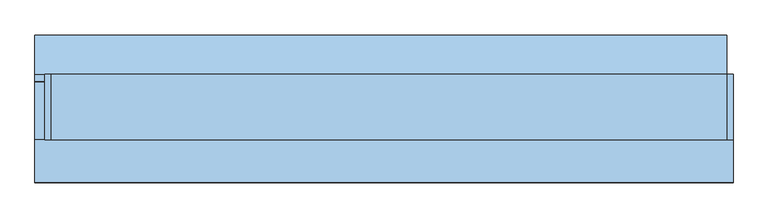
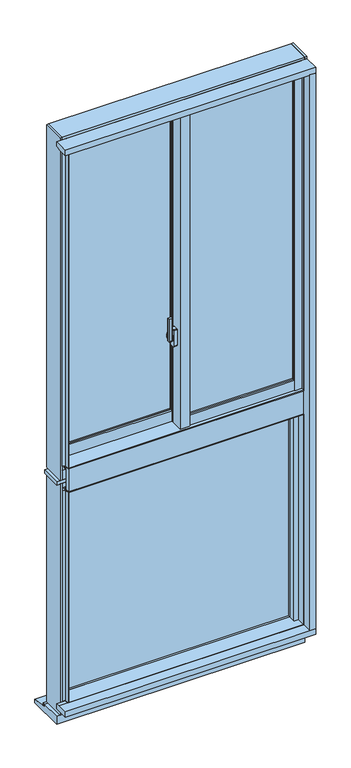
"""IFC4 building model written with IfcOpenShell, lengths in millimetres: window geometry, FNSⅡ100R_非防火_RC枠_段窓_分解無目 : 隠蔽突出排煙/框ドア."""

from ifc_helpers import new_model, si_unit, point, frame, frame_2d, origin, place, context, project, spatial, polyline, circle_curve, trimmed, segment, composite_curve, outline, extrude, faceted_brep, source, transform, mapped, element, save
from ifc_brep_helpers import plane_surface, cylinder_surface, revolved_surface, advanced_brep


def window_af76bd46(model_context):
    return source(origin(), model_context, "Body", "SolidModel", [
        extrude(outline(composite_curve([segment(polyline([(-39.0, -20.4), (-39.0, -28.6)]), True, "CONTINUOUS"), segment(trimmed(circle_curve(frame_2d((-41.0, -28.6)), 2.0), [point((-39.0, -28.6))], [point((-41.3606557, -30.5672131))], False, "CARTESIAN"), True, "CONTINUOUS"), segment(polyline([(-41.3606557, -30.5672131), (-52.3606557, -28.5505464)]), True, "CONTINUOUS"), segment(trimmed(circle_curve(frame_2d((-52.0, -26.5833333)), 2.0), [point((-52.3606557, -28.5505464))], [point((-54.0, -26.5833333))], False, "CARTESIAN"), True, "CONTINUOUS"), segment(polyline([(-54.0, -26.5833333), (-54.0, -22.4166667)]), True, "CONTINUOUS"), segment(trimmed(circle_curve(frame_2d((-52.0, -22.4166667)), 2.0), [point((-54.0, -22.4166667))], [point((-52.3606557, -20.4494536))], False, "CARTESIAN"), True, "CONTINUOUS"), segment(polyline([(-52.3606557, -20.4494536), (-41.3606557, -18.4327869)]), True, "CONTINUOUS"), segment(trimmed(circle_curve(frame_2d((-41.0, -20.4)), 2.0), [point((-41.3606557, -18.4327869))], [point((-39.0, -20.4))], False, "CARTESIAN"), True, "CONTINUOUS")], self_intersect=False)), frame((0.0, 0.0, 2345.0), z_axis=(0.0, 0.0, 1.0), x_axis=(1.0, 0.0, 0.0)), (0.0, 0.0, 1.0), 100.0),
        advanced_brep(
        [(-37.5, -16.1765715, 2376.7333311), (-45.5, -16.1765715, 2376.7333311), (-45.5, -16.5648001, 2375.2844424), (-39.0, -16.5648001, 2375.2844424), (-39.0, -18.3765334, 2368.5229616), (-37.5, -18.3765334, 2368.5229616), (-39.0, -18.3533883, 2334.3190372), (-45.5, -18.3533883, 2334.3190372), (-45.5, -18.092916, 2332.8418256), (-37.5, -18.092916, 2332.8418256), (-37.5, -19.5689255, 2341.2126915), (-39.0, -19.5689255, 2341.2126915)],
        [
            (0, 1),
            (1, 2),
            (2, 3),
            (3, 4),
            (4, 5),
            (5, 0),
            (6, 7),
            (7, 8),
            (8, 9),
            (9, 10),
            (10, 11),
            (11, 6),
            (0, 9, circle_curve(frame((-37.5, -22.0, 2355.0), z_axis=(-1.0, 0.0, 0.0), x_axis=(0.0, 0.25881904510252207, 0.965925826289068)), 22.5)),
            (8, 1, circle_curve(frame((-45.5, -22.0, 2355.0), z_axis=(1.0, 0.0, 0.0), x_axis=(0.0, 0.25881904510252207, 0.965925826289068)), 22.5)),
            (7, 2, circle_curve(frame((-45.5, -22.0, 2355.0), z_axis=(1.0, 0.0, 0.0), x_axis=(0.0, 0.25881904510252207, 0.965925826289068)), 21.0)),
            (6, 3, circle_curve(frame((-39.0, -22.0, 2355.0), z_axis=(1.0, 0.0, 0.0), x_axis=(0.0, 0.25881904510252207, 0.965925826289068)), 21.0)),
            (11, 4, circle_curve(frame((-39.0, -22.0, 2355.0), z_axis=(-1.0, 0.0, 0.0), x_axis=(0.0, -1.0, 0.0)), 14.0)),
            (5, 10, circle_curve(frame((-37.5, -22.0, 2355.0), z_axis=(1.0, 0.0, 0.0), x_axis=(0.0, -1.0, 0.0)), 14.0)),
        ],
        [
            plane_surface(frame((-43.5470497, -22.0, 2355.0), z_axis=(0.0, -0.965925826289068, 0.25881904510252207), x_axis=(0.0, 0.25881904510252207, 0.965925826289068))),
            plane_surface(frame((-43.5470497, -22.0, 2355.0), z_axis=(0.0, -0.9848077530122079, -0.17364817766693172), x_axis=(0.0, 0.17364817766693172, -0.9848077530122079))),
            cylinder_surface(frame((-43.5470497, -22.0, 2355.0), z_axis=(-1.0, 0.0, 0.0), x_axis=(0.0, 0.25881904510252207, 0.965925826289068)), 22.5),
            plane_surface(frame((-45.5, -22.0, 2355.0), z_axis=(-1.0, 0.0, 0.0), x_axis=(0.0, 0.25881904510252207, 0.965925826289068))),
            revolved_surface(polyline([(-45.5, -16.564800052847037, 2375.2844423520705), (-39.0, -16.564800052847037, 2375.2844423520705)]), (-43.5470497, -22.0, 2355.0), (-1.0, 0.0, 0.0)),
            plane_surface(frame((-39.0, -22.0, 2355.0), z_axis=(-1.0, 0.0, 0.0), x_axis=(0.0, 0.25881904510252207, 0.965925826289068))),
            plane_surface(frame((-37.5, -22.0, 2355.0), z_axis=(1.0, 0.0, 0.0), x_axis=(0.0, 0.25881904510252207, 0.965925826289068))),
            cylinder_surface(frame((-37.5, -22.0, 2355.0), z_axis=(-1.0, 0.0, 0.0), x_axis=(0.0, -1.0, 0.0)), 14.0),
        ],
        [
            (0, [[1, 2, 3, 4, 5, 6]]),
            (1, [[7, 8, 9, 10, 11, 12]]),
            (2, [[-1, 13, -9, 14]]),
            (3, [[-2, -14, -8, 15]]),
            (4, [[-3, -15, -7, 16]]),
            (5, [[-16, -12, 17, -4]]),
            (6, [[-13, -6, 18, -10]]),
            (7, [[-17, -11, -18, -5]]),
        ],
    ),
        extrude(outline(composite_curve([segment(trimmed(circle_curve(frame_2d((-22.0, 2355.0)), 11.5), [point((-10.5, 2355.0))], [point((-33.5, 2355.0))], False, "CARTESIAN"), True, "CONTINUOUS"), segment(trimmed(circle_curve(frame_2d((-22.0, 2355.0)), 11.5), [point((-33.5, 2355.0))], [point((-10.5, 2355.0))], False, "CARTESIAN"), True, "CONTINUOUS")], self_intersect=False)), frame((-37.5, 0.0, 0.0), z_axis=(1.0, 0.0, 0.0), x_axis=(0.0, 1.0, 0.0)), (0.0, 0.0, 1.0), 2.5),
        extrude(outline(composite_curve([segment(polyline([(-31.0, 2392.5), (-13.0, 2392.5)]), True, "CONTINUOUS"), segment(trimmed(circle_curve(frame_2d((-13.0, 2390.5)), 2.0), [point((-13.0, 2392.5))], [point((-11.0, 2390.5))], False, "CARTESIAN"), True, "CONTINUOUS"), segment(polyline([(-11.0, 2390.5), (-11.0, 2319.5)]), True, "CONTINUOUS"), segment(trimmed(circle_curve(frame_2d((-13.0, 2319.5)), 2.0), [point((-11.0, 2319.5))], [point((-13.0, 2317.5))], False, "CARTESIAN"), True, "CONTINUOUS"), segment(polyline([(-13.0, 2317.5), (-31.0, 2317.5)]), True, "CONTINUOUS"), segment(trimmed(circle_curve(frame_2d((-31.0, 2319.5)), 2.0), [point((-31.0, 2317.5))], [point((-33.0, 2319.5))], False, "CARTESIAN"), True, "CONTINUOUS"), segment(polyline([(-33.0, 2319.5), (-33.0, 2390.5)]), True, "CONTINUOUS"), segment(trimmed(circle_curve(frame_2d((-31.0, 2390.5)), 2.0), [point((-33.0, 2390.5))], [point((-31.0, 2392.5))], False, "CARTESIAN"), True, "CONTINUOUS")], self_intersect=False)), frame((-35.0, 0.0, 0.0), z_axis=(1.0, 0.0, 0.0), x_axis=(0.0, 1.0, 0.0)), (0.0, 0.0, 1.0), 15.0),
        extrude(outline(polyline([(20.0, -31.0), (468.0, -31.0), (468.0, -37.0), (20.0, -37.0), (20.0, -31.0)])), frame((0.0, 0.0, 2003.0), z_axis=(0.0, 0.0, 1.0), x_axis=(1.0, 0.0, 0.0)), (0.0, 0.0, 1.0), 1357.0),
        extrude(outline(polyline([(20.0, -13.0), (468.0, -13.0), (468.0, -19.0), (20.0, -19.0), (20.0, -13.0)])), frame((0.0, 0.0, 2003.0), z_axis=(0.0, 0.0, 1.0), x_axis=(1.0, 0.0, 0.0)), (0.0, 0.0, 1.0), 1357.0),
        extrude(outline(polyline([(-468.0, 27.0), (-20.0, 27.0), (-20.0, 21.0), (-468.0, 21.0), (-468.0, 27.0)])), frame((0.0, 0.0, 2003.0), z_axis=(0.0, 0.0, 1.0), x_axis=(1.0, 0.0, 0.0)), (0.0, 0.0, 1.0), 1357.0),
        extrude(outline(polyline([(-468.0, 45.0), (-20.0, 45.0), (-20.0, 39.0), (-468.0, 39.0), (-468.0, 45.0)])), frame((0.0, 0.0, 2003.0), z_axis=(0.0, 0.0, 1.0), x_axis=(1.0, 0.0, 0.0)), (0.0, 0.0, 1.0), 1357.0),
        faceted_brep([(-489.5, 24.0, 3400.0), (-500.0, 24.0, 3400.0), (-500.0, 24.0, 1915.0), (-468.0, 24.0, 1915.0), (-468.0, 24.0, 1955.0), (-489.5, 24.0, 1955.0), (-489.5, 11.0, 3400.0), (-489.5, 11.0, 1955.0), (-468.0, 53.0, 3400.0), (-468.0, 11.0, 3400.0), (-468.0, 11.0, 1955.0), (-468.0, 53.0, 1915.0), (-500.0, 53.0, 3400.0), (-500.0, 53.0, 1915.0)], [[[0, 1, 2, 3, 4, 5]], [[6, 0, 5, 7]], [[8, 9, 10, 4, 3, 11]], [[1, 0, 6, 9, 8, 12]], [[3, 2, 13, 11]], [[9, 6, 7, 10]], [[12, 8, 11, 13]], [[2, 1, 12, 13]], [[5, 4, 10, 7]]]),
        faceted_brep([(-20.0, 10.5, 3400.0), (-1.8, 10.5, 3400.0), (-1.8, -1.9, 3400.0), (20.0, -1.9, 3400.0), (20.0, 53.0, 3400.0), (-20.0, 53.0, 3400.0), (-20.0, 53.0, 1915.0), (20.0, 53.0, 1915.0), (20.0, 24.0, 1915.0), (-20.0, 24.0, 1915.0), (-20.0, 10.5, 1955.0), (-1.8, 10.5, 1955.0), (-1.8, -1.9, 1955.0), (20.0, -1.9, 1955.0), (20.0, 24.0, 1955.0), (-20.0, 24.0, 1955.0)], [[[0, 1, 2, 3, 4, 5]], [[6, 7, 8, 9]], [[1, 0, 10, 11]], [[2, 1, 11, 12]], [[3, 2, 12, 13]], [[4, 3, 13, 14, 8, 7]], [[5, 4, 7, 6]], [[0, 5, 6, 9, 15, 10]], [[14, 15, 9, 8]], [[15, 14, 13, 12, 11, 10]]]),
        extrude(outline(polyline([(-20.0, -1.9), (-15.0, -1.9), (-15.0, -47.0), (15.0, -47.0), (15.0, -43.0), (20.0, -43.0), (20.0, -55.0), (-20.0, -55.0), (-20.0, -1.9)])), frame((0.0, 0.0, 1955.0), z_axis=(0.0, 0.0, 1.0), x_axis=(1.0, 0.0, 0.0)), (0.0, 0.0, 1.0), 1445.0),
        extrude(outline(polyline([(-15.0, -1.9), (20.0, -1.9), (20.0, -43.0), (15.0, -43.0), (15.0, -47.0), (-15.0, -47.0), (-15.0, -1.9)])), frame((0.0, 0.0, 1955.0), z_axis=(0.0, 0.0, 1.0), x_axis=(1.0, 0.0, 0.0)), (0.0, 0.0, 1.0), 1445.0),
        extrude(outline(polyline([(468.0, -55.0), (468.0, -47.0), (489.5, -47.0), (489.5, -34.0), (497.0, -34.0), (497.0, -55.0), (468.0, -55.0)])), frame((0.0, 0.0, 1958.0), z_axis=(0.0, 0.0, 1.0), x_axis=(1.0, 0.0, 0.0)), (0.0, 0.0, 1.0), 1442.0),
        extrude(outline(polyline([(468.0, -5.0), (500.0, -5.0), (500.0, -34.0), (489.5, -34.0), (489.5, -47.0), (468.0, -47.0), (468.0, -5.0)])), frame((0.0, 0.0, 1955.0), z_axis=(0.0, 0.0, 1.0), x_axis=(1.0, 0.0, 0.0)), (0.0, 0.0, 1.0), 1445.0),
        extrude(outline(polyline([(-1.85, 10.5), (-1.85, 3.0), (-20.0, 3.0), (-20.0, 10.5), (-1.85, 10.5)])), frame((0.0, 0.0, 1955.0), z_axis=(0.0, 0.0, 1.0), x_axis=(1.0, 0.0, 0.0)), (0.0, 0.0, 1.0), 1445.0),
        extrude(outline(polyline([(-497.0, 24.0), (-489.5, 24.0), (-489.5, 11.0), (-468.0, 11.0), (-468.0, 3.0), (-497.0, 3.0), (-497.0, 24.0)])), frame((0.0, 0.0, 1955.0), z_axis=(0.0, 0.0, 1.0), x_axis=(1.0, 0.0, 0.0)), (0.0, 0.0, 1.0), 1445.0),
        extrude(outline(polyline([(-53.0, 1958.0), (-53.0, 2003.0), (-45.0, 2003.0), (-45.0, 1980.5), (-34.0, 1980.5), (-34.0, 1958.0), (-53.0, 1958.0)])), frame((20.0, 0.0, 0.0), z_axis=(1.0, 0.0, 0.0), x_axis=(0.0, 1.0, 0.0)), (0.0, 0.0, 1.0), 448.0),
        extrude(outline(polyline([(-5.0, 1955.0), (-34.0, 1955.0), (-34.0, 1980.5), (-45.0, 1980.5), (-45.0, 2003.0), (-5.0, 2003.0), (-5.0, 1955.0)])), frame((20.0, 0.0, 0.0), z_axis=(1.0, 0.0, 0.0), x_axis=(0.0, 1.0, 0.0)), (0.0, 0.0, 1.0), 448.0),
        extrude(outline(polyline([(5.0, 2003.0), (13.0, 2003.0), (13.0, 1980.5), (24.0, 1980.5), (24.0, 1955.0), (5.0, 1955.0), (5.0, 2003.0)])), frame((-468.0, 0.0, 0.0), z_axis=(1.0, 0.0, 0.0), x_axis=(0.0, 1.0, 0.0)), (0.0, 0.0, 1.0), 448.0),
        extrude(outline(polyline([(53.0, 1915.0), (24.0, 1915.0), (24.0, 1980.5), (13.0, 1980.5), (13.0, 2003.0), (53.0, 2003.0), (53.0, 1915.0)])), frame((-468.0, 0.0, 0.0), z_axis=(1.0, 0.0, 0.0), x_axis=(0.0, 1.0, 0.0)), (0.0, 0.0, 1.0), 448.0),
        extrude(outline(polyline([(-32.0, 3380.5), (-45.0, 3380.5), (-45.0, 3360.0), (-53.0, 3360.0), (-53.0, 3400.0), (-32.0, 3400.0), (-32.0, 3380.5)])), frame((20.0, 0.0, 0.0), z_axis=(1.0, 0.0, 0.0), x_axis=(0.0, 1.0, 0.0)), (0.0, 0.0, 1.0), 448.0),
        extrude(outline(polyline([(-5.0, 3400.0), (-5.0, 3360.0), (-45.0, 3360.0), (-45.0, 3380.5), (-32.0, 3380.5), (-32.0, 3400.0), (-5.0, 3400.0)])), frame((20.0, 0.0, 0.0), z_axis=(1.0, 0.0, 0.0), x_axis=(0.0, 1.0, 0.0)), (0.0, 0.0, 1.0), 448.0),
        extrude(outline(polyline([(26.0, 3380.5), (13.0, 3380.5), (13.0, 3360.0), (5.0, 3360.0), (5.0, 3400.0), (26.0, 3400.0), (26.0, 3380.5)])), frame((-468.0, 0.0, 0.0), z_axis=(1.0, 0.0, 0.0), x_axis=(0.0, 1.0, 0.0)), (0.0, 0.0, 1.0), 448.0),
        extrude(outline(polyline([(53.0, 3400.0), (53.0, 3360.0), (13.0, 3360.0), (13.0, 3380.5), (26.0, 3380.5), (26.0, 3400.0), (53.0, 3400.0)])), frame((-468.0, 0.0, 0.0), z_axis=(1.0, 0.0, 0.0), x_axis=(0.0, 1.0, 0.0)), (0.0, 0.0, 1.0), 448.0),
        extrude(outline(polyline([(-15.0, 25.3), (-15.0, -23.1), (-500.0, -23.1), (-500.0, 25.3), (-15.0, 25.3)])), frame((0.0, 0.0, 3400.0), z_axis=(0.0, 0.0, 1.0), x_axis=(1.0, 0.0, 0.0)), (0.0, 0.0, 1.0), 25.0),
        faceted_brep([(515.0, 25.3, 3425.0), (515.0, -45.0, 3425.0), (-515.0, -45.0, 3425.0), (-515.0, 25.3, 3425.0), (-15.0, 25.3, 3425.0), (-15.0, -23.1, 3425.0), (500.0, -23.1, 3425.0), (500.0, 25.3, 3425.0), (-515.0, 25.3, 3400.0), (-15.0, 25.3, 3400.0), (515.0, 25.3, 3400.0), (500.0, 25.3, 3400.0), (515.0, 55.0, 3400.0), (500.0, -23.1, 3400.0), (-15.0, -23.1, 3400.0), (-515.0, 55.0, 3400.0), (515.0, 55.0, 3435.0), (-515.0, 55.0, 3435.0), (515.0, -45.0, 3435.0), (-515.0, -45.0, 3435.0)], [[[0, 1, 2, 3, 4, 5, 6, 7]], [[3, 8, 9, 4]], [[10, 0, 7, 11]], [[12, 10, 11, 13, 14, 9, 8, 15]], [[16, 12, 15, 17]], [[18, 16, 17, 19]], [[1, 18, 19, 2]], [[12, 16, 18, 1, 0, 10]], [[15, 8, 3, 2, 19, 17]], [[6, 13, 11, 7]], [[9, 14, 5, 4]], [[13, 6, 5, 14]]]),
        extrude(outline(polyline([(-23.1, 3400.0), (-65.0, 3400.0), (-65.0, 3403.0), (-45.0, 3403.0), (-45.0, 3425.0), (-23.1, 3425.0), (-23.1, 3400.0)])), frame((-500.0, 0.0, 0.0), z_axis=(1.0, 0.0, 0.0), x_axis=(0.0, 1.0, 0.0)), (0.0, 0.0, 1.0), 1000.0),
        faceted_brep([(500.0, -65.0, 1955.0), (503.0, -65.0, 1955.0), (503.0, -65.0, 3403.0), (500.0, -65.0, 3403.0), (500.0, -40.5, 3420.0), (515.0, -40.5, 3420.0), (515.0, -40.5, 1955.0), (500.0, -40.5, 1955.0), (500.0, -45.0, 3403.0), (500.0, -45.0, 3420.0), (503.0, -45.0, 3403.0), (515.0, -45.0, 3420.0), (515.0, -45.0, 1955.0), (503.0, -45.0, 1955.0)], [[[0, 1, 2, 3]], [[4, 5, 6, 7]], [[7, 0, 3, 8, 9, 4]], [[10, 8, 3, 2]], [[9, 11, 5, 4]], [[0, 7, 6, 12, 13, 1]], [[1, 13, 10, 2]], [[9, 8, 10, 13, 12, 11]], [[5, 11, 12, 6]]]),
        faceted_brep([(-515.0, 21.0, 3420.0), (-500.0, 21.0, 3420.0), (-500.0, 21.0, 1955.0), (-515.0, 21.0, 1955.0), (-515.0, -45.0, 3420.0), (-500.0, -45.0, 3420.0), (-515.0, -45.0, 1955.0), (-500.0, -65.0, 1955.0), (-503.0, -65.0, 1955.0), (-503.0, -45.0, 1955.0), (-503.0, -45.0, 3403.0), (-500.0, -45.0, 3403.0), (-503.0, -65.0, 3403.0), (-500.0, -65.0, 3403.0)], [[[0, 1, 2, 3]], [[4, 5, 1, 0]], [[6, 3, 2, 7, 8, 9]], [[6, 9, 10, 11, 5, 4]], [[9, 8, 12, 10]], [[8, 7, 13, 12]], [[7, 2, 1, 5, 11, 13]], [[6, 4, 0, 3]], [[11, 10, 12, 13]]]),
        faceted_brep([(-525.0, 55.0, 1895.0), (-515.0, 55.0, 1895.0), (-515.0, -45.0, 1895.0), (-525.0, -45.0, 1895.0), (-515.0, -45.0, 3435.0), (-525.0, -45.0, 3435.0), (-500.0, 55.0, 1904.0), (-500.0, 21.0, 1904.0), (-515.0, 21.0, 1904.0), (-515.0, 55.0, 1904.0), (-500.0, 21.0, 3400.0), (-515.0, 21.0, 3400.0), (-525.0, 55.0, 3435.0), (-515.0, 55.0, 3435.0), (-515.0, 55.0, 3400.0), (-500.0, 55.0, 3400.0)], [[[0, 1, 2, 3]], [[4, 5, 3, 2]], [[6, 7, 8, 9]], [[10, 11, 8, 7]], [[12, 5, 4, 13]], [[5, 12, 0, 3]], [[13, 4, 2, 1, 9, 8, 11, 14]], [[12, 13, 14, 15, 6, 9, 1, 0]], [[15, 14, 11, 10]], [[15, 10, 7, 6]]]),
        faceted_brep([(515.0, -45.0, 1895.0), (515.0, 55.0, 1895.0), (525.0, 55.0, 1895.0), (525.0, -45.0, 1895.0), (500.0, -40.5, 1904.0), (500.0, 55.0, 1904.0), (515.0, 55.0, 1904.0), (515.0, -40.5, 1904.0), (515.0, -45.0, 3435.0), (515.0, 55.0, 3435.0), (515.0, 55.0, 3400.0), (515.0, -40.5, 3400.0), (525.0, -45.0, 3435.0), (525.0, 55.0, 3435.0), (500.0, -40.5, 3400.0), (500.0, 55.0, 3400.0)], [[[0, 1, 2, 3]], [[4, 5, 6, 7]], [[8, 9, 10, 11, 7, 6, 1, 0]], [[8, 12, 13, 9]], [[11, 14, 4, 7]], [[14, 15, 5, 4]], [[14, 11, 10, 15]], [[12, 8, 0, 3]], [[13, 12, 3, 2]], [[9, 13, 2, 1, 6, 5, 15, 10]]]),
        faceted_brep([(515.0, 21.0, 1904.0), (515.0, 55.0, 1904.0), (-515.0, 55.0, 1904.0), (-515.0, 21.0, 1904.0), (515.0, -45.0, 1939.0), (515.0, 21.0, 1939.0), (-515.0, 21.0, 1939.0), (-515.0, -45.0, 1939.0), (500.0, -17.75, 1939.0), (500.0, -36.2, 1939.0), (-15.0, -36.2, 1939.0), (-15.0, -17.75, 1939.0), (515.0, 55.0, 1895.0), (515.0, -45.0, 1895.0), (-515.0, -45.0, 1895.0), (-515.0, 55.0, 1895.0), (500.0, -36.2, 1955.0), (500.0, -17.75, 1955.0), (-15.0, -36.2, 1955.0), (-15.0, -17.75, 1955.0)], [[[0, 1, 2, 3]], [[4, 5, 6, 7], [8, 9, 10, 11]], [[5, 0, 3, 6]], [[12, 13, 14, 15]], [[12, 1, 0, 5, 4, 13]], [[15, 14, 7, 6, 3, 2]], [[13, 4, 7, 14]], [[1, 12, 15, 2]], [[16, 9, 8, 17]], [[18, 19, 11, 10]], [[9, 16, 18, 10]], [[17, 8, 11, 19]], [[16, 17, 19, 18]]]),
        faceted_brep([(-503.0, -45.0, 1939.0), (-503.0, -45.0, 1952.0), (-503.0, -65.0, 1952.0), (-503.0, -65.0, 1955.0), (-503.0, -36.2, 1955.0), (-503.0, -36.2, 1939.0), (503.0, -45.0, 1952.0), (503.0, -65.0, 1952.0), (503.0, -65.0, 1955.0), (503.0, -40.5, 1955.0), (500.0, -40.5, 1955.0), (500.0, -36.2, 1955.0), (-15.0, -36.2, 1955.0), (-15.0, 21.0, 1955.0), (-500.0, 21.0, 1955.0), (-500.0, -36.2, 1955.0), (-500.0, -36.2, 1939.0), (500.0, -36.2, 1939.0), (-15.0, -36.2, 1939.0), (503.0, -45.0, 1939.0), (503.0, -40.5, 1939.0), (-500.0, 21.0, 1939.0), (-15.0, 21.0, 1939.0), (500.0, -40.5, 1939.0)], [[[0, 1, 2, 3, 4, 5]], [[6, 7, 2, 1]], [[7, 8, 3, 2]], [[4, 3, 8, 9, 10, 11, 12, 13, 14, 15]], [[5, 4, 15, 16]], [[11, 17, 18, 12]], [[8, 7, 6, 19, 20, 9]], [[19, 6, 1, 0]], [[0, 5, 16, 21, 22, 18, 17, 23, 20, 19]], [[10, 23, 17, 11]], [[23, 10, 9, 20]], [[13, 12, 18, 22]], [[14, 21, 16, 15]], [[13, 22, 21, 14]]]),
        extrude(outline(polyline([(-480.0, 20.6), (480.0, 20.6), (480.0, 14.6), (-480.0, 14.6), (-480.0, 20.6)])), frame((0.0, 0.0, 900.0), z_axis=(0.0, 0.0, 1.0), x_axis=(1.0, 0.0, 0.0)), (0.0, 0.0, 1.0), 925.0),
        extrude(outline(polyline([(-480.0, 38.6), (480.0, 38.6), (480.0, 32.6), (-480.0, 32.6), (-480.0, 38.6)])), frame((0.0, 0.0, 900.0), z_axis=(0.0, 0.0, 1.0), x_axis=(1.0, 0.0, 0.0)), (0.0, 0.0, 1.0), 925.0),
        faceted_brep([(-525.0, 55.0, 1880.0), (-525.0, -45.0, 1880.0), (-515.0, -45.0, 1880.0), (-515.0, 55.0, 1880.0), (-525.0, 55.0, 840.0), (-515.0, 55.0, 840.0), (-515.0, -45.0, 840.0), (-525.0, -45.0, 840.0), (-515.0, 55.0, 900.0), (-515.0, 5.0, 900.0), (-515.0, 5.0, 1825.0), (-515.0, 55.0, 1825.0), (-480.0, 55.0, 1825.0), (-480.0, 55.0, 900.0), (-480.0, 5.0, 1825.0), (-480.0, 5.0, 900.0)], [[[0, 1, 2, 3]], [[4, 5, 6, 7]], [[1, 0, 4, 7]], [[2, 1, 7, 6]], [[3, 2, 6, 5, 8, 9, 10, 11]], [[0, 3, 11, 12, 13, 8, 5, 4]], [[12, 11, 10, 14]], [[13, 15, 9, 8]], [[14, 10, 9, 15]], [[12, 14, 15, 13]]]),
        faceted_brep([(525.0, 55.0, 1880.0), (515.0, 55.0, 1880.0), (515.0, -45.0, 1880.0), (525.0, -45.0, 1880.0), (525.0, 55.0, 840.0), (525.0, -45.0, 840.0), (515.0, -45.0, 840.0), (515.0, 55.0, 840.0), (515.0, 55.0, 900.0), (480.0, 55.0, 900.0), (480.0, 55.0, 1825.0), (515.0, 55.0, 1825.0), (515.0, 5.0, 1825.0), (515.0, 5.0, 900.0), (480.0, 5.0, 1825.0), (480.0, 5.0, 900.0)], [[[0, 1, 2, 3]], [[4, 5, 6, 7]], [[1, 0, 4, 7, 8, 9, 10, 11]], [[2, 1, 11, 12, 13, 8, 7, 6]], [[3, 2, 6, 5]], [[0, 3, 5, 4]], [[11, 10, 14, 12]], [[13, 15, 9, 8]], [[14, 10, 9, 15]], [[12, 14, 15, 13]]]),
        extrude(outline(polyline([(500.0, -65.0), (500.0, -26.5), (480.0, -26.5), (480.0, 5.0), (515.0, 5.0), (515.0, -45.0), (503.0, -45.0), (503.0, -65.0), (500.0, -65.0)])), frame((0.0, 0.0, 900.0), z_axis=(0.0, 0.0, 1.0), x_axis=(1.0, 0.0, 0.0)), (0.0, 0.0, 1.0), 945.0),
        extrude(outline(polyline([(-515.0, -45.0), (-515.0, 5.0), (-480.0, 5.0), (-480.0, -26.5), (-500.0, -26.5), (-500.0, -65.0), (-503.0, -65.0), (-503.0, -45.0), (-515.0, -45.0)])), frame((0.0, 0.0, 900.0), z_axis=(0.0, 0.0, 1.0), x_axis=(1.0, 0.0, 0.0)), (0.0, 0.0, 1.0), 945.0),
        extrude(outline(polyline([(-45.0, 884.0), (-45.0, 897.0), (-65.0, 897.0), (-65.0, 900.0), (5.0, 900.0), (5.0, 884.0), (-45.0, 884.0)])), frame((-503.0, 0.0, 0.0), z_axis=(1.0, 0.0, 0.0), x_axis=(0.0, 1.0, 0.0)), (0.0, 0.0, 1.0), 1006.0),
        extrude(outline(polyline([(55.0, 840.0), (-45.0, 840.0), (-45.0, 884.0), (5.0, 884.0), (5.0, 900.0), (55.0, 900.0), (55.0, 870.0), (36.0, 870.0), (36.0, 850.0), (55.0, 850.0), (55.0, 840.0)])), frame((-515.0, 0.0, 0.0), z_axis=(1.0, 0.0, 0.0), x_axis=(0.0, 1.0, 0.0)), (0.0, 0.0, 1.0), 1030.0),
        extrude(outline(polyline([(5.0, 1822.0), (-29.0, 1822.0), (-29.0, 1845.0), (-65.0, 1845.0), (-65.0, 1848.0), (-45.0, 1848.0), (-45.0, 1860.0), (5.0, 1860.0), (5.0, 1822.0)])), frame((-503.0, 0.0, 0.0), z_axis=(1.0, 0.0, 0.0), x_axis=(0.0, 1.0, 0.0)), (0.0, 0.0, 1.0), 1006.0),
        extrude(outline(polyline([(55.0, 1825.0), (5.0, 1825.0), (5.0, 1860.0), (-45.0, 1860.0), (-45.0, 1880.0), (55.0, 1880.0), (55.0, 1825.0)])), frame((-515.0, 0.0, 0.0), z_axis=(1.0, 0.0, 0.0), x_axis=(0.0, 1.0, 0.0)), (0.0, 0.0, 1.0), 1030.0),
        extrude(outline(polyline([(-110.0, 900.0), (-65.0, 900.0), (-65.0, 897.0), (-45.0, 897.0), (-45.0, 875.0), (-110.0, 875.0), (-110.0, 900.0)])), frame((-540.0, 0.0, 0.0), z_axis=(1.0, 0.0, 0.0), x_axis=(0.0, 1.0, 0.0)), (0.0, 0.0, 1.0), 1065.0),
        extrude(outline(polyline([(45.0, 840.0), (55.0, 840.0), (55.0, 828.4285714), (45.0, 830.0), (45.0, 840.0)])), frame((-540.0, 0.0, 0.0), z_axis=(1.0, 0.0, 0.0), x_axis=(0.0, 1.0, 0.0)), (0.0, 0.0, 1.0), 1055.0),
        extrude(outline(polyline([(-45.0, 804.0), (-45.0, 840.0), (45.0, 840.0), (45.0, 830.0), (115.0, 819.0), (115.0, 804.0), (-45.0, 804.0)])), frame((-540.0, 0.0, 0.0), z_axis=(1.0, 0.0, 0.0), x_axis=(0.0, 1.0, 0.0)), (0.0, 0.0, 1.0), 1055.0),
        extrude(outline(polyline([(500.0, -110.0), (500.0, -65.0), (503.0, -65.0), (503.0, -45.0), (525.0, -45.0), (525.0, -110.0), (500.0, -110.0)])), frame((0.0, 0.0, 900.0), z_axis=(0.0, 0.0, 1.0), x_axis=(1.0, 0.0, 0.0)), (0.0, 0.0, 1.0), 2500.0),
        extrude(outline(polyline([(-110.0, 3425.0), (-45.0, 3425.0), (-45.0, 3403.0), (-65.0, 3403.0), (-65.0, 3400.0), (-110.0, 3400.0), (-110.0, 3425.0)])), frame((-540.0, 0.0, 0.0), z_axis=(1.0, 0.0, 0.0), x_axis=(0.0, 1.0, 0.0)), (0.0, 0.0, 1.0), 1065.0),
        extrude(outline(polyline([(-500.0, -65.0), (-500.0, -45.0), (500.0, -45.0), (500.0, -65.0), (-500.0, -65.0)])), frame((0.0, 0.0, 1848.0), z_axis=(0.0, 0.0, 1.0), x_axis=(1.0, 0.0, 0.0)), (0.0, 0.0, 1.0), 104.0),
        extrude(outline(polyline([(-540.0, -45.0), (-540.0, 43.0), (515.0, 43.0), (515.0, -45.0), (-540.0, -45.0)])), frame((0.0, 0.0, 1880.0), z_axis=(0.0, 0.0, 1.0), x_axis=(1.0, 0.0, 0.0)), (0.0, 0.0, 1.0), 15.0),
    ])


if __name__ == "__main__":
    model = new_model("IFC4")
    model_context = context("Model", 3, world=origin())
    ifc_project = project(units=[si_unit("LENGTHUNIT", "METRE", prefix="MILLI")], contexts=[model_context])
    site = spatial("IfcSite", under=ifc_project)
    building = spatial("IfcBuilding", under=site)
    placement = place(None, origin())
    window_shape = window_af76bd46(model_context)
    element("IfcWindow", 1, ObjectType="FNSⅡ100R_非防火_RC枠_段窓_分解無目 : 隠蔽突出排煙/框ドア", at=placement, inside=building, context=model_context, shape_type="MappedRepresentation", body=[
        mapped(window_shape, transform((0.0, 0.0, 0.0), x_axis=(1.0, 0.0, 0.0), y_axis=(0.0, 1.0, 0.0), z_axis=(0.0, 0.0, 1.0))),
    ])
    save(model, "model.ifc")
